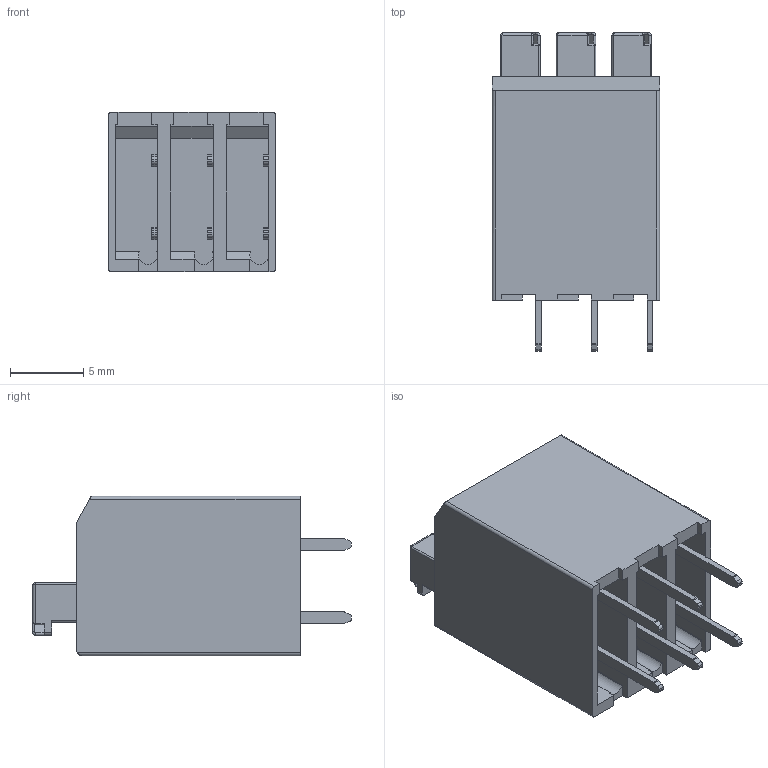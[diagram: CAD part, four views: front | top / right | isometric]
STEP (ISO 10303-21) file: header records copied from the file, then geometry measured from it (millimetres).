
FILE_DESCRIPTION((''),'2;1');
FILE_NAME('HV0330800000G_SW0001','2019-05-28T',('zhenbing.lai'),(''),'CREO PARAMETRIC BY PTC INC, 2016260','CREO PARAMETRIC BY PTC INC, 2016260','');
FILE_SCHEMA(('CONFIG_CONTROL_DESIGN'));
Length unit declared in the file: millimetre
Products named in the file (1): HV0330800000G_SW0001
Bounding box: 11.43 x 21.8 x 10.9 mm (x, y, z)
Volume: 1584.8 mm3; surface area: 1815.8 mm2
Topology: 1 solids, 7 shells, 435 faces, 1146 edges, 724 vertices
Faces by surface type: plane 258, cylinder 117, bspline 47, sphere 10, torus 3
Entity records: 15875 total; most frequent: CARTESIAN_POINT 5372, ORIENTED_EDGE 2272, DIRECTION 2022, EDGE_CURVE 1136, VECTOR 794, LINE 794, VERTEX_POINT 724, AXIS2_PLACEMENT_3D 614
